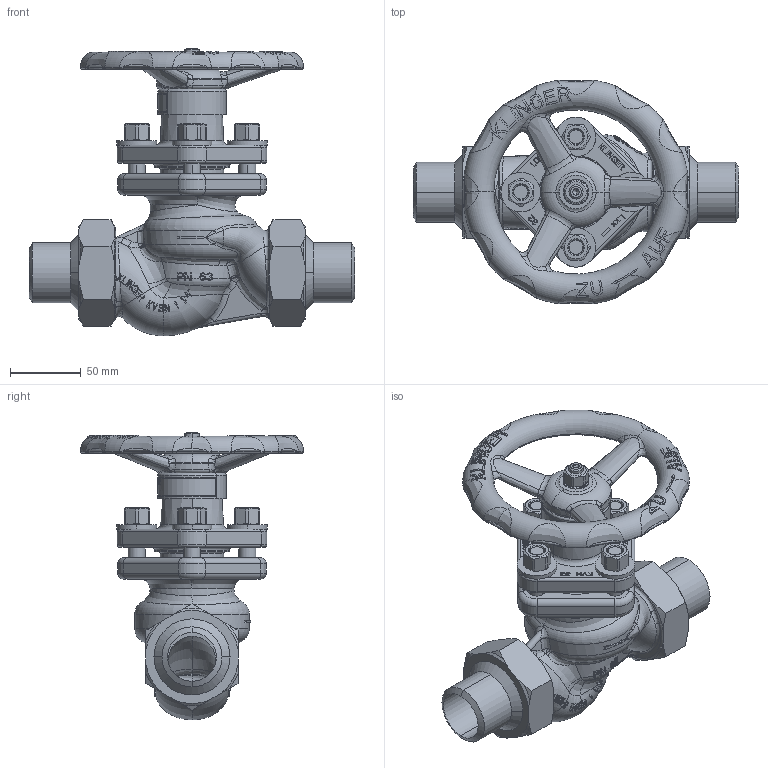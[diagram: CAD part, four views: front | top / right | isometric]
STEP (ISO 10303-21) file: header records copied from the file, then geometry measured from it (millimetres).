
FILE_DESCRIPTION((''),'2;1');
FILE_NAME('KVSN-032S-----P063PGG_SW0001','2015-07-09T',('jeitlers'),('RAND'),'PRO/ENGINEER BY PARAMETRIC TECHNOLOGY CORPORATION, 2013410','PRO/ENGINEER BY PARAMETRIC TECHNOLOGY CORPORATION, 2013410','');
FILE_SCHEMA(('CONFIG_CONTROL_DESIGN'));
Products named in the file (1): KVSN-032S-----P063PGG_SW0001
Bounding box: 230 x 157.91 x 203.3 mm (x, y, z)
Volume: 740331.5 mm3; surface area: 210258.7 mm2
Topology: 1 solids, 4 shells, 2741 faces, 7392 edges, 4748 vertices
Faces by surface type: plane 1715, bspline 386, cylinder 316, torus 172, cone 144, extrusion 6, sphere 2
Entity records: 165634 total; most frequent: CARTESIAN_POINT 102239, ORIENTED_EDGE 14780, DIRECTION 10819, EDGE_CURVE 7390, VERTEX_POINT 4748, AXIS2_PLACEMENT_3D 3640, VECTOR 3539, LINE 3533
